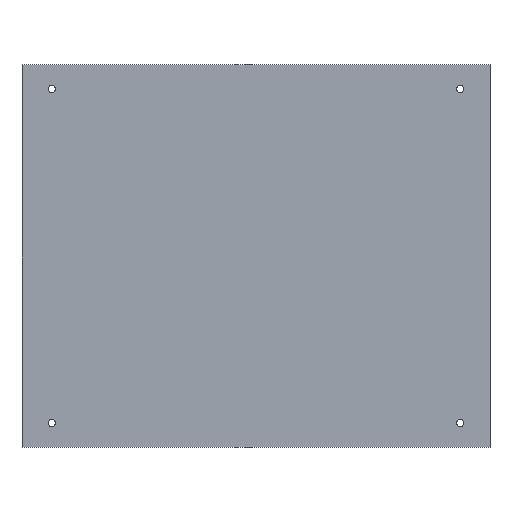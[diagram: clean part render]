
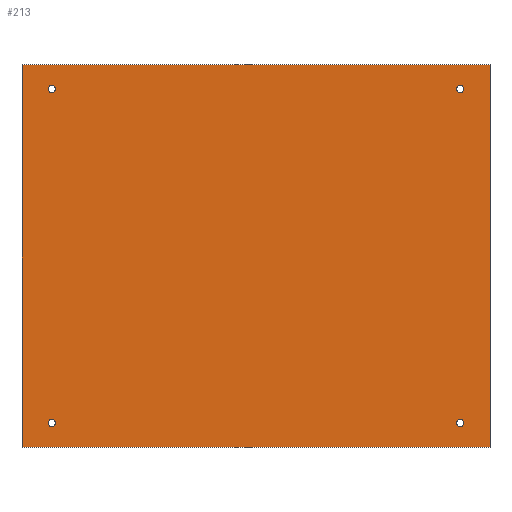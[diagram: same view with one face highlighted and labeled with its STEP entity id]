
A CAD part, top view. The second image highlights one B-rep face of the part: STEP entity #213.
In plain terms, the highlighted planar face has unit normal (0, 0, 1).
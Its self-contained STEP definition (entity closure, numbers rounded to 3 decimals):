
#24 = VERTEX_POINT('',#25);
#25 = CARTESIAN_POINT('',(-110.,-90.,90.));
#32 = PLANE('',#33);
#33 = AXIS2_PLACEMENT_3D('',#34,#35,#36);
#34 = CARTESIAN_POINT('',(-110.,-90.,88.5));
#35 = DIRECTION('',(1.,0.,0.));
#36 = DIRECTION('',(0.,0.,1.));
#44 = PLANE('',#45);
#45 = AXIS2_PLACEMENT_3D('',#46,#47,#48);
#46 = CARTESIAN_POINT('',(-110.,-90.,88.5));
#47 = DIRECTION('',(0.,1.,0.));
#48 = DIRECTION('',(0.,0.,1.));
#85 = VERTEX_POINT('',#86);
#86 = CARTESIAN_POINT('',(-110.,90.,90.));
#100 = PLANE('',#101);
#101 = AXIS2_PLACEMENT_3D('',#102,#103,#104);
#102 = CARTESIAN_POINT('',(-110.,90.,88.5));
#103 = DIRECTION('',(0.,1.,0.));
#104 = DIRECTION('',(0.,0.,1.));
#112 = EDGE_CURVE('',#24,#85,#113,.T.);
#113 = SURFACE_CURVE('',#114,(#118,#125),.PCURVE_S1.);
#114 = LINE('',#115,#116);
#115 = CARTESIAN_POINT('',(-110.,-90.,90.));
#116 = VECTOR('',#117,1.);
#117 = DIRECTION('',(0.,1.,0.));
#118 = PCURVE('',#32,#119);
#119 = DEFINITIONAL_REPRESENTATION('',(#120),#124);
#120 = LINE('',#121,#122);
#121 = CARTESIAN_POINT('',(1.5,0.));
#122 = VECTOR('',#123,1.);
#123 = DIRECTION('',(0.,-1.));
#124 = ( GEOMETRIC_REPRESENTATION_CONTEXT(2) 
PARAMETRIC_REPRESENTATION_CONTEXT() REPRESENTATION_CONTEXT('2D SPACE',''
  ) );
#125 = PCURVE('',#126,#131);
#126 = PLANE('',#127);
#127 = AXIS2_PLACEMENT_3D('',#128,#129,#130);
#128 = CARTESIAN_POINT('',(-110.,-90.,90.));
#129 = DIRECTION('',(0.,0.,1.));
#130 = DIRECTION('',(1.,0.,0.));
#131 = DEFINITIONAL_REPRESENTATION('',(#132),#136);
#132 = LINE('',#133,#134);
#133 = CARTESIAN_POINT('',(0.,0.));
#134 = VECTOR('',#135,1.);
#135 = DIRECTION('',(0.,1.));
#136 = ( GEOMETRIC_REPRESENTATION_CONTEXT(2) 
PARAMETRIC_REPRESENTATION_CONTEXT() REPRESENTATION_CONTEXT('2D SPACE',''
  ) );
#165 = EDGE_CURVE('',#24,#166,#168,.T.);
#166 = VERTEX_POINT('',#167);
#167 = CARTESIAN_POINT('',(110.,-90.,90.));
#168 = SURFACE_CURVE('',#169,(#173,#180),.PCURVE_S1.);
#169 = LINE('',#170,#171);
#170 = CARTESIAN_POINT('',(-110.,-90.,90.));
#171 = VECTOR('',#172,1.);
#172 = DIRECTION('',(1.,0.,0.));
#173 = PCURVE('',#44,#174);
#174 = DEFINITIONAL_REPRESENTATION('',(#175),#179);
#175 = LINE('',#176,#177);
#176 = CARTESIAN_POINT('',(1.5,0.));
#177 = VECTOR('',#178,1.);
#178 = DIRECTION('',(0.,1.));
#179 = ( GEOMETRIC_REPRESENTATION_CONTEXT(2) 
PARAMETRIC_REPRESENTATION_CONTEXT() REPRESENTATION_CONTEXT('2D SPACE',''
  ) );
#180 = PCURVE('',#126,#181);
#181 = DEFINITIONAL_REPRESENTATION('',(#182),#186);
#182 = LINE('',#183,#184);
#183 = CARTESIAN_POINT('',(0.,0.));
#184 = VECTOR('',#185,1.);
#185 = DIRECTION('',(1.,0.));
#186 = ( GEOMETRIC_REPRESENTATION_CONTEXT(2) 
PARAMETRIC_REPRESENTATION_CONTEXT() REPRESENTATION_CONTEXT('2D SPACE',''
  ) );
#202 = PLANE('',#203);
#203 = AXIS2_PLACEMENT_3D('',#204,#205,#206);
#204 = CARTESIAN_POINT('',(110.,-90.,88.5));
#205 = DIRECTION('',(1.,0.,0.));
#206 = DIRECTION('',(0.,0.,1.));
#213 = ADVANCED_FACE('',(#214,#262,#293,#324,#355),#126,.T.);
#214 = FACE_BOUND('',#215,.T.);
#215 = EDGE_LOOP('',(#216,#217,#218,#241));
#216 = ORIENTED_EDGE('',*,*,#112,.F.);
#217 = ORIENTED_EDGE('',*,*,#165,.T.);
#218 = ORIENTED_EDGE('',*,*,#219,.T.);
#219 = EDGE_CURVE('',#166,#220,#222,.T.);
#220 = VERTEX_POINT('',#221);
#221 = CARTESIAN_POINT('',(110.,90.,90.));
#222 = SURFACE_CURVE('',#223,(#227,#234),.PCURVE_S1.);
#223 = LINE('',#224,#225);
#224 = CARTESIAN_POINT('',(110.,-90.,90.));
#225 = VECTOR('',#226,1.);
#226 = DIRECTION('',(0.,1.,0.));
#227 = PCURVE('',#126,#228);
#228 = DEFINITIONAL_REPRESENTATION('',(#229),#233);
#229 = LINE('',#230,#231);
#230 = CARTESIAN_POINT('',(220.,0.));
#231 = VECTOR('',#232,1.);
#232 = DIRECTION('',(0.,1.));
#233 = ( GEOMETRIC_REPRESENTATION_CONTEXT(2) 
PARAMETRIC_REPRESENTATION_CONTEXT() REPRESENTATION_CONTEXT('2D SPACE',''
  ) );
#234 = PCURVE('',#202,#235);
#235 = DEFINITIONAL_REPRESENTATION('',(#236),#240);
#236 = LINE('',#237,#238);
#237 = CARTESIAN_POINT('',(1.5,0.));
#238 = VECTOR('',#239,1.);
#239 = DIRECTION('',(0.,-1.));
#240 = ( GEOMETRIC_REPRESENTATION_CONTEXT(2) 
PARAMETRIC_REPRESENTATION_CONTEXT() REPRESENTATION_CONTEXT('2D SPACE',''
  ) );
#241 = ORIENTED_EDGE('',*,*,#242,.F.);
#242 = EDGE_CURVE('',#85,#220,#243,.T.);
#243 = SURFACE_CURVE('',#244,(#248,#255),.PCURVE_S1.);
#244 = LINE('',#245,#246);
#245 = CARTESIAN_POINT('',(-110.,90.,90.));
#246 = VECTOR('',#247,1.);
#247 = DIRECTION('',(1.,0.,0.));
#248 = PCURVE('',#126,#249);
#249 = DEFINITIONAL_REPRESENTATION('',(#250),#254);
#250 = LINE('',#251,#252);
#251 = CARTESIAN_POINT('',(0.,180.));
#252 = VECTOR('',#253,1.);
#253 = DIRECTION('',(1.,0.));
#254 = ( GEOMETRIC_REPRESENTATION_CONTEXT(2) 
PARAMETRIC_REPRESENTATION_CONTEXT() REPRESENTATION_CONTEXT('2D SPACE',''
  ) );
#255 = PCURVE('',#100,#256);
#256 = DEFINITIONAL_REPRESENTATION('',(#257),#261);
#257 = LINE('',#258,#259);
#258 = CARTESIAN_POINT('',(1.5,0.));
#259 = VECTOR('',#260,1.);
#260 = DIRECTION('',(0.,1.));
#261 = ( GEOMETRIC_REPRESENTATION_CONTEXT(2) 
PARAMETRIC_REPRESENTATION_CONTEXT() REPRESENTATION_CONTEXT('2D SPACE',''
  ) );
#262 = FACE_BOUND('',#263,.T.);
#263 = EDGE_LOOP('',(#264));
#264 = ORIENTED_EDGE('',*,*,#265,.F.);
#265 = EDGE_CURVE('',#266,#266,#268,.T.);
#266 = VERTEX_POINT('',#267);
#267 = CARTESIAN_POINT('',(-94.3,-78.5,90.));
#268 = SURFACE_CURVE('',#269,(#274,#281),.PCURVE_S1.);
#269 = CIRCLE('',#270,1.7);
#270 = AXIS2_PLACEMENT_3D('',#271,#272,#273);
#271 = CARTESIAN_POINT('',(-96.,-78.5,90.));
#272 = DIRECTION('',(0.,0.,1.));
#273 = DIRECTION('',(1.,0.,-0.));
#274 = PCURVE('',#126,#275);
#275 = DEFINITIONAL_REPRESENTATION('',(#276),#280);
#276 = CIRCLE('',#277,1.7);
#277 = AXIS2_PLACEMENT_2D('',#278,#279);
#278 = CARTESIAN_POINT('',(14.,11.5));
#279 = DIRECTION('',(1.,0.));
#280 = ( GEOMETRIC_REPRESENTATION_CONTEXT(2) 
PARAMETRIC_REPRESENTATION_CONTEXT() REPRESENTATION_CONTEXT('2D SPACE',''
  ) );
#281 = PCURVE('',#282,#287);
#282 = CYLINDRICAL_SURFACE('',#283,1.7);
#283 = AXIS2_PLACEMENT_3D('',#284,#285,#286);
#284 = CARTESIAN_POINT('',(-96.,-78.5,87.5));
#285 = DIRECTION('',(0.,0.,1.));
#286 = DIRECTION('',(1.,0.,-0.));
#287 = DEFINITIONAL_REPRESENTATION('',(#288),#292);
#288 = LINE('',#289,#290);
#289 = CARTESIAN_POINT('',(0.,2.5));
#290 = VECTOR('',#291,1.);
#291 = DIRECTION('',(1.,0.));
#292 = ( GEOMETRIC_REPRESENTATION_CONTEXT(2) 
PARAMETRIC_REPRESENTATION_CONTEXT() REPRESENTATION_CONTEXT('2D SPACE',''
  ) );
#293 = FACE_BOUND('',#294,.T.);
#294 = EDGE_LOOP('',(#295));
#295 = ORIENTED_EDGE('',*,*,#296,.F.);
#296 = EDGE_CURVE('',#297,#297,#299,.T.);
#297 = VERTEX_POINT('',#298);
#298 = CARTESIAN_POINT('',(97.7,-78.5,90.));
#299 = SURFACE_CURVE('',#300,(#305,#312),.PCURVE_S1.);
#300 = CIRCLE('',#301,1.7);
#301 = AXIS2_PLACEMENT_3D('',#302,#303,#304);
#302 = CARTESIAN_POINT('',(96.,-78.5,90.));
#303 = DIRECTION('',(0.,0.,1.));
#304 = DIRECTION('',(1.,0.,-0.));
#305 = PCURVE('',#126,#306);
#306 = DEFINITIONAL_REPRESENTATION('',(#307),#311);
#307 = CIRCLE('',#308,1.7);
#308 = AXIS2_PLACEMENT_2D('',#309,#310);
#309 = CARTESIAN_POINT('',(206.,11.5));
#310 = DIRECTION('',(1.,0.));
#311 = ( GEOMETRIC_REPRESENTATION_CONTEXT(2) 
PARAMETRIC_REPRESENTATION_CONTEXT() REPRESENTATION_CONTEXT('2D SPACE',''
  ) );
#312 = PCURVE('',#313,#318);
#313 = CYLINDRICAL_SURFACE('',#314,1.7);
#314 = AXIS2_PLACEMENT_3D('',#315,#316,#317);
#315 = CARTESIAN_POINT('',(96.,-78.5,87.5));
#316 = DIRECTION('',(0.,0.,1.));
#317 = DIRECTION('',(1.,0.,-0.));
#318 = DEFINITIONAL_REPRESENTATION('',(#319),#323);
#319 = LINE('',#320,#321);
#320 = CARTESIAN_POINT('',(0.,2.5));
#321 = VECTOR('',#322,1.);
#322 = DIRECTION('',(1.,0.));
#323 = ( GEOMETRIC_REPRESENTATION_CONTEXT(2) 
PARAMETRIC_REPRESENTATION_CONTEXT() REPRESENTATION_CONTEXT('2D SPACE',''
  ) );
#324 = FACE_BOUND('',#325,.T.);
#325 = EDGE_LOOP('',(#326));
#326 = ORIENTED_EDGE('',*,*,#327,.F.);
#327 = EDGE_CURVE('',#328,#328,#330,.T.);
#328 = VERTEX_POINT('',#329);
#329 = CARTESIAN_POINT('',(-94.3,78.5,90.));
#330 = SURFACE_CURVE('',#331,(#336,#343),.PCURVE_S1.);
#331 = CIRCLE('',#332,1.7);
#332 = AXIS2_PLACEMENT_3D('',#333,#334,#335);
#333 = CARTESIAN_POINT('',(-96.,78.5,90.));
#334 = DIRECTION('',(0.,0.,1.));
#335 = DIRECTION('',(1.,0.,-0.));
#336 = PCURVE('',#126,#337);
#337 = DEFINITIONAL_REPRESENTATION('',(#338),#342);
#338 = CIRCLE('',#339,1.7);
#339 = AXIS2_PLACEMENT_2D('',#340,#341);
#340 = CARTESIAN_POINT('',(14.,168.5));
#341 = DIRECTION('',(1.,0.));
#342 = ( GEOMETRIC_REPRESENTATION_CONTEXT(2) 
PARAMETRIC_REPRESENTATION_CONTEXT() REPRESENTATION_CONTEXT('2D SPACE',''
  ) );
#343 = PCURVE('',#344,#349);
#344 = CYLINDRICAL_SURFACE('',#345,1.7);
#345 = AXIS2_PLACEMENT_3D('',#346,#347,#348);
#346 = CARTESIAN_POINT('',(-96.,78.5,87.5));
#347 = DIRECTION('',(0.,0.,1.));
#348 = DIRECTION('',(1.,0.,-0.));
#349 = DEFINITIONAL_REPRESENTATION('',(#350),#354);
#350 = LINE('',#351,#352);
#351 = CARTESIAN_POINT('',(0.,2.5));
#352 = VECTOR('',#353,1.);
#353 = DIRECTION('',(1.,0.));
#354 = ( GEOMETRIC_REPRESENTATION_CONTEXT(2) 
PARAMETRIC_REPRESENTATION_CONTEXT() REPRESENTATION_CONTEXT('2D SPACE',''
  ) );
#355 = FACE_BOUND('',#356,.T.);
#356 = EDGE_LOOP('',(#357));
#357 = ORIENTED_EDGE('',*,*,#358,.F.);
#358 = EDGE_CURVE('',#359,#359,#361,.T.);
#359 = VERTEX_POINT('',#360);
#360 = CARTESIAN_POINT('',(97.7,78.5,90.));
#361 = SURFACE_CURVE('',#362,(#367,#374),.PCURVE_S1.);
#362 = CIRCLE('',#363,1.7);
#363 = AXIS2_PLACEMENT_3D('',#364,#365,#366);
#364 = CARTESIAN_POINT('',(96.,78.5,90.));
#365 = DIRECTION('',(0.,0.,1.));
#366 = DIRECTION('',(1.,0.,-0.));
#367 = PCURVE('',#126,#368);
#368 = DEFINITIONAL_REPRESENTATION('',(#369),#373);
#369 = CIRCLE('',#370,1.7);
#370 = AXIS2_PLACEMENT_2D('',#371,#372);
#371 = CARTESIAN_POINT('',(206.,168.5));
#372 = DIRECTION('',(1.,0.));
#373 = ( GEOMETRIC_REPRESENTATION_CONTEXT(2) 
PARAMETRIC_REPRESENTATION_CONTEXT() REPRESENTATION_CONTEXT('2D SPACE',''
  ) );
#374 = PCURVE('',#375,#380);
#375 = CYLINDRICAL_SURFACE('',#376,1.7);
#376 = AXIS2_PLACEMENT_3D('',#377,#378,#379);
#377 = CARTESIAN_POINT('',(96.,78.5,87.5));
#378 = DIRECTION('',(0.,0.,1.));
#379 = DIRECTION('',(1.,0.,-0.));
#380 = DEFINITIONAL_REPRESENTATION('',(#381),#385);
#381 = LINE('',#382,#383);
#382 = CARTESIAN_POINT('',(0.,2.5));
#383 = VECTOR('',#384,1.);
#384 = DIRECTION('',(1.,0.));
#385 = ( GEOMETRIC_REPRESENTATION_CONTEXT(2) 
PARAMETRIC_REPRESENTATION_CONTEXT() REPRESENTATION_CONTEXT('2D SPACE',''
  ) );
